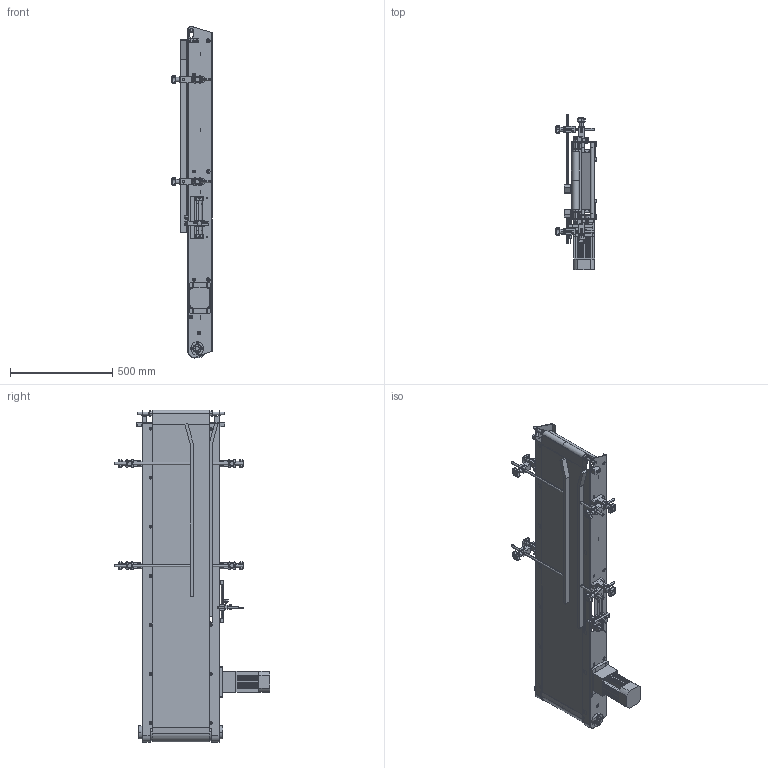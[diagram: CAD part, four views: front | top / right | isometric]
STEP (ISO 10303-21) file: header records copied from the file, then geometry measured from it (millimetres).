
FILE_DESCRIPTION(/* description */ (''),/* implementation_level */ '2;1');
FILE_NAME(/* name */ 'beltconveyor_a071_w280_l1600.stp',/* time_stamp */ '2024-12-29T09:34:45+08:00',/* author */ (''),/* organization */ (''),/* preprocessor_version */ 'ST-DEVELOPER v16.7',/* originating_system */ 'SIEMENS PLM Software NX 12.0',/* authorisation */ '');
FILE_SCHEMA (('AUTOMOTIVE_DESIGN { 1 0 10303 214 3 1 1 1 }'));
Products named in the file (42): U型支架   ZJ-LJT(30X30X53); 内牙连接棒 Ф12X105; T型支架   ZJ-TJTA(70X30X75); 支架锁定握轮 Φ12; YT11300.03.03-02输送前侧板; YT11300.03.03-01输送后侧板; YT11300.03.03-03前导向条; PVC输送带，黑色（F26020B），内周长3
260X宽280X厚2.0; 感应式马达减速机6IK180RGN-CF-6GN
-10K; YT11300.03.03-07输送带松紧调整块; YT11300.03.03-08主动轴承座; 同步链1; short pitch roller chain wheel_s_iso_Chain wheel ISO - 15Z 08B-1 --15
SB40H22-7.5L22R1; YT11300.03.03-13输送侧板顶杆; YT11300.03.03-12电机固定板; YT11300.03.03-05输送带托板; YT11300.03.03-09输送主动轮; YT11300.03.03-04后导向条; YT11300.03.03-06托板锁定板; YT11300.03.03-14固定输送夹块; 6004  深沟球轴承20X42X12; short pitch roller chain wheel_s_iso_Chain wheel ISO - 12Z 08B-1 --12
SB30H22L12S1; YT11300.03.04-05测物电眼锁定杆; 五星握轮M5X15（外牙）; YT11300.03.04-02测物电眼架滑杆; YT11300.03.04-04测物电眼支撑杆; YT11300.03.04-03测物电眼架滑块; 五星握轮M6X20（外牙）; 测物光电眼; 含墨轴承8X10X6; YT11300.03.04-01测物电眼架座; YT11300.03.02-02输送从动滚筒; YT11300.03.02-01输送从动滚筒心轴; YT11300.03.01-02输送滚筒; YT11300.03.01-01输送滚筒轴; 6802  深沟球轴承15X24X5; 护栏支架; YT11300.03.03输送架; YT11300.03.04电眼支架; YT11300.03.02输送从动滚筒 ...
Assembly tree (71 placements, depth 4):
  beltconveyor_a071_w280_l1600
    YT11300.03.01输送滚筒  x3
      6802  深沟球轴承15X24X5
      YT11300.03.01-01输送滚筒轴
      YT11300.03.01-02输送滚筒
    YT11300.03.02输送从动滚筒
      YT11300.03.02-01输送从动滚筒心轴
      6802  深沟球轴承15X24X5  x2
      YT11300.03.02-02输送从动滚筒
    YT11300.03.04电眼支架
      YT11300.03.04-01测物电眼架座  x2
      含墨轴承8X10X6  x4
      测物光电眼
      五星握轮M6X20（外牙）
      YT11300.03.04-03测物电眼架滑块
      YT11300.03.04-04测物电眼支撑杆
      YT11300.03.04-02测物电眼架滑杆  x2
      五星握轮M5X15（外牙）
      YT11300.03.04-05测物电眼锁定杆
    YT11300.03.03输送架
      short pitch roller chain wheel_s_iso_Chain wheel ISO - 12Z 08B-1 --12
SB30H22L12S1
      6004  深沟球轴承20X42X12  x2
      YT11300.03.03-14固定输送夹块  x4
      YT11300.03.03-06托板锁定板  x7
      YT11300.03.03-04后导向条
      YT11300.03.03-09输送主动轮
      护栏支架  x4
        支架锁定握轮 Φ12
        T型支架   ZJ-TJTA(70X30X75)
        内牙连接棒 Ф12X105
        U型支架   ZJ-LJT(30X30X53)
      YT11300.03.03-05输送带托板
      YT11300.03.03-12电机固定板
      YT11300.03.03-13输送侧板顶杆  x5
      short pitch roller chain wheel_s_iso_Chain wheel ISO - 15Z 08B-1 --15
SB40H22-7.5L22R1
      同步链1
      YT11300.03.03-08主动轴承座  x2
      YT11300.03.03-07输送带松紧调整块  x2
      感应式马达减速机6IK180RGN-CF-6GN
-10K
      PVC输送带，黑色（F26020B），内周长3
260X宽280X厚2.0
      YT11300.03.03-03前导向条
      YT11300.03.03-01输送后侧板
      YT11300.03.03-02输送前侧板
Bounding box: 199 x 759.5 x 1625.48 mm (x, y, z)
Volume: 11580257.3 mm3; surface area: 5652615.9 mm2
Topology: 134 solids, 136 shells, 3899 faces, 9544 edges, 6049 vertices
Faces by surface type: plane 1494, cylinder 1166, extrusion 492, cone 280, torus 217, sphere 128, bspline 122
Entity records: 84734 total; most frequent: CARTESIAN_POINT 26118, ORIENTED_EDGE 12302, DIRECTION 10059, EDGE_CURVE 6151, VERTEX_POINT 4016, VECTOR 3413, AXIS2_PLACEMENT_3D 3323, LINE 2921
